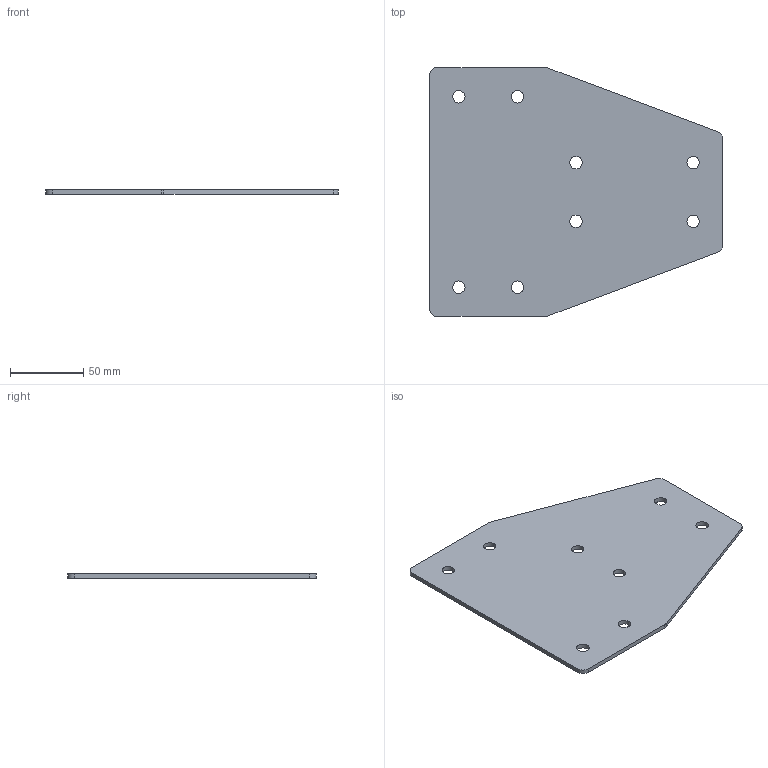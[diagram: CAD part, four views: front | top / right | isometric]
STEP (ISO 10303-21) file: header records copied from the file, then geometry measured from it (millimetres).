
FILE_DESCRIPTION(/* description */ ('CONNECTION PLATE T-CROSS FOR 80x80'),/* implementation_level */ '2;1');
FILE_NAME(/* name */ '\\carryline.intra\privat\users\mathias\Desktop\Tillfälliga filer\100-5025.stp',/* time_stamp */ '2018-11-20T11:05:13+01:00',/* author */ ('PL'),/* organization */ ('CARRYLINE'),/* preprocessor_version */ 'ST-DEVELOPER v17',/* originating_system */ 'Autodesk Inventor 2018',/* authorisation */ '');
FILE_SCHEMA (('AUTOMOTIVE_DESIGN { 1 0 10303 214 3 1 1 }'));
Length unit declared in the file: millimetre
Products named in the file (1): 100-5025
Bounding box: 200 x 170 x 3 mm (x, y, z)
Volume: 84392.6 mm3; surface area: 58883.4 mm2
Topology: 1 solids, 1 shells, 22 faces, 68 edges, 48 vertices
Faces by surface type: cylinder 14, plane 8
Full cylindrical faces by diameter (mm): 8.5 x8
Entity records: 863 total; most frequent: DIRECTION 150, CARTESIAN_POINT 139, ORIENTED_EDGE 136, EDGE_CURVE 68, AXIS2_PLACEMENT_3D 59, VERTEX_POINT 48, EDGE_LOOP 38, CIRCLE 36
